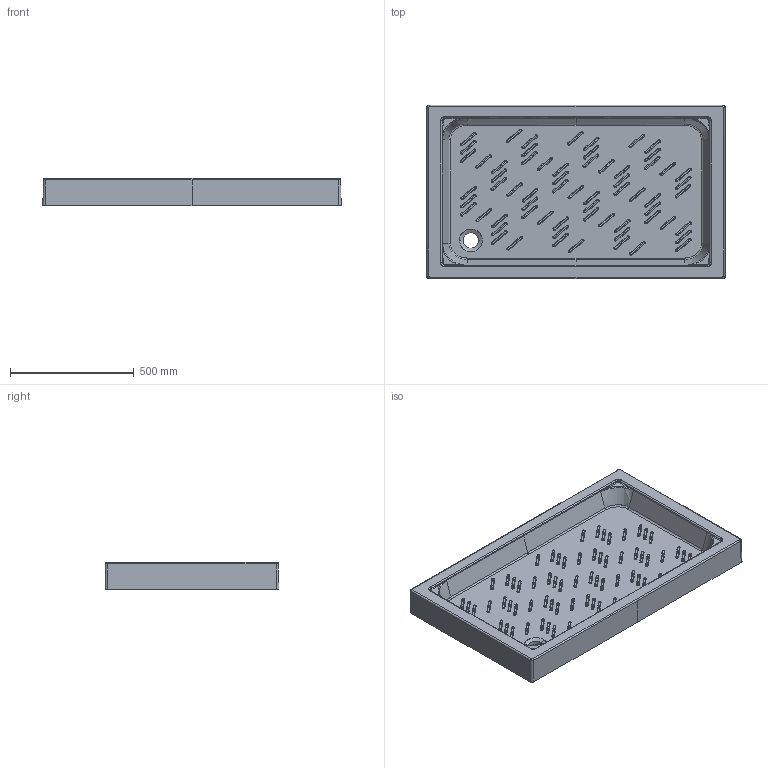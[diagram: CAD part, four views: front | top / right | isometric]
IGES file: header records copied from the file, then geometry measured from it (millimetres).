
Start section: START RECORD GO HERE.
Global section: file name: 1014_3D.igs; native system: DASSAULT SYSTEMES CATIA V5 R19 - www.3ds.com; preprocessor: CATIA Version 5 Release 19 SP 5 ; author: gioge; organization: LAPTOP-G94B6G74; date: 20201022.152137; units: millimetre
Bounding box: 1205.76 x 702.52 x 110 mm (x, y, z)
Surface area: 1455568.9 mm2 (no closed solid volume)
Topology: 0 solids, 0 shells, 677 faces, 3563 edges, 3561 vertices
Faces by surface type: bspline 602, plane 73, revolution 2
